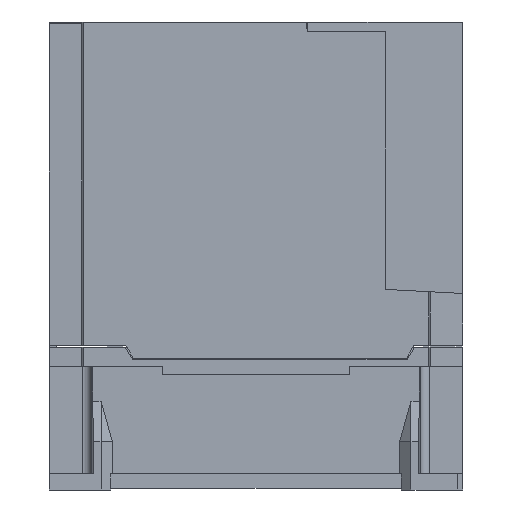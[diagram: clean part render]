
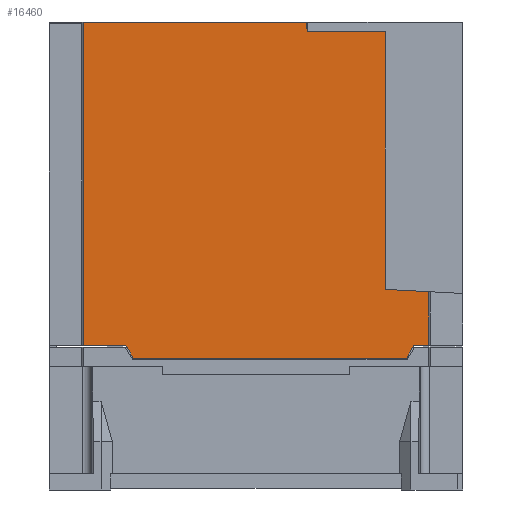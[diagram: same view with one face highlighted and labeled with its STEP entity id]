
A CAD part, left-side view. The second image highlights one B-rep face of the part: STEP entity #16460.
In plain terms, the highlighted planar face has unit normal (-1, 0, 0).
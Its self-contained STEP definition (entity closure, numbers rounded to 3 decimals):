
#2799=DIRECTION('',(0.,-1.,0.));
#2800=VECTOR('',#2799,4.54);
#2801=CARTESIAN_POINT('',(-54.,15.091,0.5));
#2802=LINE('',#2801,#2800);
#2803=DIRECTION('',(0.,-0.5,0.866));
#2804=VECTOR('',#2803,4.619);
#2805=CARTESIAN_POINT('',(-54.,17.4,-3.5));
#2806=LINE('',#2805,#2804);
#2807=DIRECTION('',(0.,-1.,0.));
#2808=VECTOR('',#2807,84.6);
#2809=CARTESIAN_POINT('',(-54.,102.,-3.5));
#2810=LINE('',#2809,#2808);
#2811=DIRECTION('',(0.,-0.5,-0.866));
#2812=VECTOR('',#2811,4.619);
#2813=CARTESIAN_POINT('',(-54.,104.309,0.5));
#2814=LINE('',#2813,#2812);
#2815=DIRECTION('',(0.,-1.,0.));
#2816=VECTOR('',#2815,13.14);
#2817=CARTESIAN_POINT('',(-54.,117.45,0.5));
#2818=LINE('',#2817,#2816);
#2819=DIRECTION('',(0.,0.,1.));
#2820=VECTOR('',#2819,100.2);
#2821=CARTESIAN_POINT('',(-54.,117.45,0.5));
#2822=LINE('',#2821,#2820);
#2823=DIRECTION('',(0.,-0.052,-0.999));
#2824=VECTOR('',#2823,3.004);
#2825=CARTESIAN_POINT('',(-54.,48.32,100.7));
#2826=LINE('',#2825,#2824);
#2827=DIRECTION('',(0.,1.,0.));
#2828=VECTOR('',#2827,24.162);
#2829=CARTESIAN_POINT('',(-54.,24.,97.7));
#2830=LINE('',#2829,#2828);
#2831=DIRECTION('',(0.,0.999,0.052));
#2832=VECTOR('',#2831,13.468);
#2833=CARTESIAN_POINT('',(-54.,10.55,17.153));
#2834=LINE('',#2833,#2832);
#2835=DIRECTION('',(0.,0.,1.));
#2836=VECTOR('',#2835,16.653);
#2837=CARTESIAN_POINT('',(-54.,10.55,0.5));
#2838=LINE('',#2837,#2836);
#2979=DIRECTION('',(0.,0.,1.));
#2980=VECTOR('',#2979,79.842);
#2981=CARTESIAN_POINT('',(-54.,24.,17.858));
#2982=LINE('',#2981,#2980);
#4885=DIRECTION('',(0.,-1.,0.));
#4886=VECTOR('',#4885,69.13);
#4887=CARTESIAN_POINT('',(-54.,117.45,100.7));
#4888=LINE('',#4887,#4886);
#9545=CARTESIAN_POINT('',(-54.,102.,-3.5));
#9546=CARTESIAN_POINT('',(-54.,17.4,-3.5));
#9547=VERTEX_POINT('',#9545);
#9548=VERTEX_POINT('',#9546);
#9557=CARTESIAN_POINT('',(-54.,15.091,0.5));
#9558=VERTEX_POINT('',#9557);
#9559=CARTESIAN_POINT('',(-54.,104.309,0.5));
#9560=VERTEX_POINT('',#9559);
#9581=CARTESIAN_POINT('',(-54.,24.,17.858));
#9582=VERTEX_POINT('',#9581);
#9637=CARTESIAN_POINT('',(-54.,117.45,0.5));
#9638=VERTEX_POINT('',#9637);
#9639=CARTESIAN_POINT('',(-54.,10.55,0.5));
#9640=VERTEX_POINT('',#9639);
#9874=CARTESIAN_POINT('',(-54.,10.55,17.153));
#9875=VERTEX_POINT('',#9874);
#9994=CARTESIAN_POINT('',(-54.,117.45,100.7));
#9995=CARTESIAN_POINT('',(-54.,48.32,100.7));
#9996=VERTEX_POINT('',#9994);
#9997=VERTEX_POINT('',#9995);
#10118=CARTESIAN_POINT('',(-54.,24.,97.7));
#10120=VERTEX_POINT('',#10118);
#10122=CARTESIAN_POINT('',(-54.,48.162,97.7));
#10123=VERTEX_POINT('',#10122);
#16433=CARTESIAN_POINT('',(-54.,128.,0.));
#16434=DIRECTION('',(-1.,0.,0.));
#16435=DIRECTION('',(0.,-1.,0.));
#16436=AXIS2_PLACEMENT_3D('',#16433,#16434,#16435);
#16437=PLANE('',#16436);
#16438=ORIENTED_EDGE('',*,*,#14927,.F.);
#16440=ORIENTED_EDGE('',*,*,#16439,.F.);
#16442=ORIENTED_EDGE('',*,*,#16441,.F.);
#16443=ORIENTED_EDGE('',*,*,#16419,.F.);
#16444=ORIENTED_EDGE('',*,*,#14996,.F.);
#16446=ORIENTED_EDGE('',*,*,#16445,.T.);
#16448=ORIENTED_EDGE('',*,*,#16447,.T.);
#16450=ORIENTED_EDGE('',*,*,#16449,.T.);
#16452=ORIENTED_EDGE('',*,*,#16451,.F.);
#16454=ORIENTED_EDGE('',*,*,#16453,.F.);
#16455=ORIENTED_EDGE('',*,*,#15572,.F.);
#16457=ORIENTED_EDGE('',*,*,#16456,.F.);
#16458=EDGE_LOOP('',(#16438,#16440,#16442,#16443,#16444,#16446,#16448,#16450,
#16452,#16454,#16455,#16457));
#16459=FACE_OUTER_BOUND('',#16458,.F.);
#16460=ADVANCED_FACE('',(#16459),#16437,.T.);
#14927=EDGE_CURVE('',#9558,#9640,#2802,.T.);
#14996=EDGE_CURVE('',#9638,#9560,#2818,.T.);
#15572=EDGE_CURVE('',#9875,#9582,#2834,.T.);
#16419=EDGE_CURVE('',#9560,#9547,#2814,.T.);
#16439=EDGE_CURVE('',#9548,#9558,#2806,.T.);
#16441=EDGE_CURVE('',#9547,#9548,#2810,.T.);
#16445=EDGE_CURVE('',#9638,#9996,#2822,.T.);
#16447=EDGE_CURVE('',#9996,#9997,#4888,.T.);
#16449=EDGE_CURVE('',#9997,#10123,#2826,.T.);
#16451=EDGE_CURVE('',#10120,#10123,#2830,.T.);
#16453=EDGE_CURVE('',#9582,#10120,#2982,.T.);
#16456=EDGE_CURVE('',#9640,#9875,#2838,.T.);
